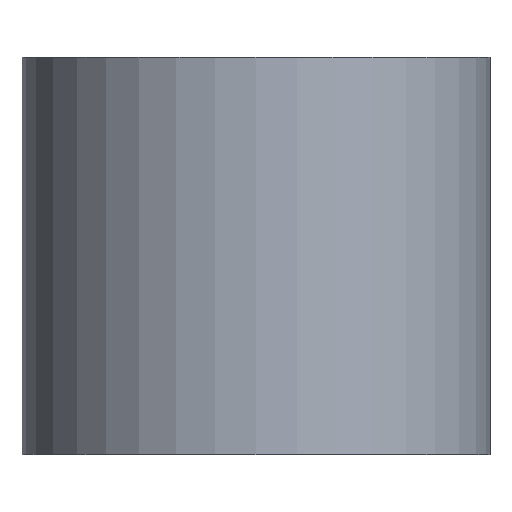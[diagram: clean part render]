
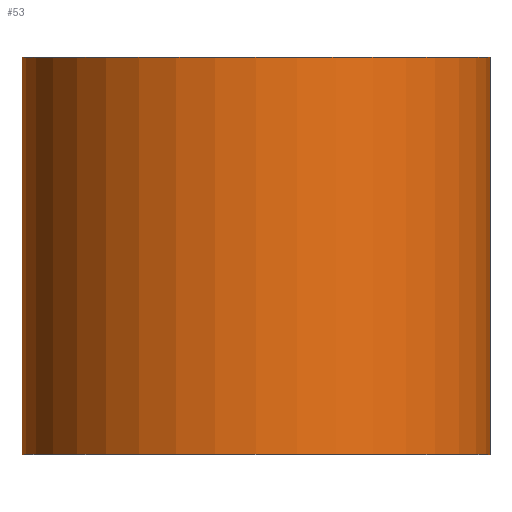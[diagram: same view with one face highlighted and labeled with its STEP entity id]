
A CAD part, top view. The second image highlights one B-rep face of the part: STEP entity #53.
In plain terms, the highlighted cylindrical face has radius 4.125 mm (diameter 8.25 mm), a full revolution.
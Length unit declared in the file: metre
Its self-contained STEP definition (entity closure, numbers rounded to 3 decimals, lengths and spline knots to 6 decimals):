
#16=ORIENTED_EDGE('',*,*,#24,.F.);
#17=ORIENTED_EDGE('',*,*,#25,.T.);
#24=EDGE_CURVE('',#28,#28,#32,.T.);
#25=EDGE_CURVE('',#29,#29,#33,.T.);
#28=VERTEX_POINT('',#103);
#29=VERTEX_POINT('',#105);
#32=CIRCLE('',#73,0.004125);
#33=CIRCLE('',#74,0.004125);
#36=EDGE_LOOP('',(#16));
#37=EDGE_LOOP('',(#17));
#44=FACE_BOUND('',#36,.T.);
#45=FACE_BOUND('',#37,.T.);
#51=CYLINDRICAL_SURFACE('',#72,0.004125);
#53=ADVANCED_FACE('',(#44,#45),#51,.T.);
#72=AXIS2_PLACEMENT_3D('',#101,#85,#86);
#73=AXIS2_PLACEMENT_3D('',#102,#87,#88);
#74=AXIS2_PLACEMENT_3D('',#104,#89,#90);
#85=DIRECTION('',(0.,1.,0.));
#86=DIRECTION('',(0.,0.,1.));
#87=DIRECTION('',(0.,-1.,0.));
#88=DIRECTION('',(0.,0.,-1.));
#89=DIRECTION('',(0.,-1.,0.));
#90=DIRECTION('',(0.,0.,-1.));
#101=CARTESIAN_POINT('',(0.,-0.007,0.));
#102=CARTESIAN_POINT('',(0.,-0.007,0.));
#103=CARTESIAN_POINT('',(0.,-0.007,-0.004125));
#104=CARTESIAN_POINT('',(0.,0.,0.));
#105=CARTESIAN_POINT('',(0.,0.,-0.004125));
